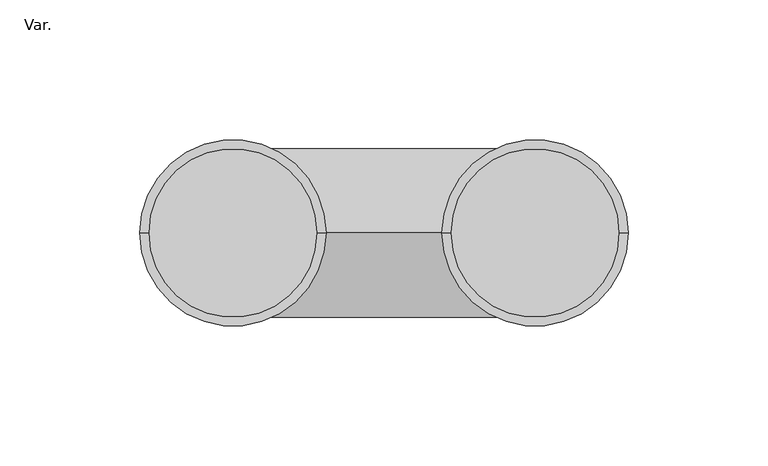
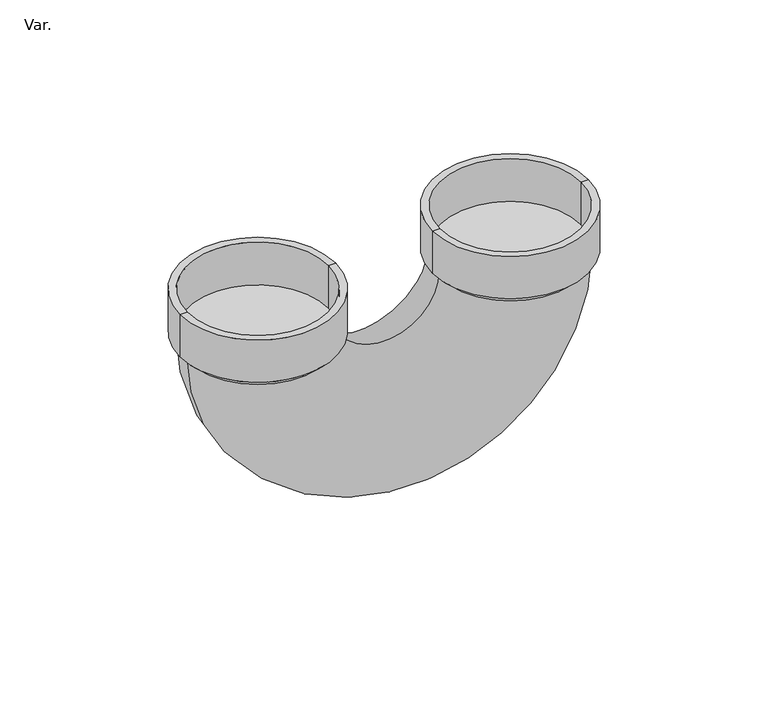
"""IFC4 building model written with IfcOpenShell, lengths in millimetres: pipe fitting geometry, PavcoWavin_UnionesDeTuberia_SanitariaSifon180_GirarCodo : Var.."""

from ifc_helpers import new_model, si_unit, point, frame, origin, origin_with_axes, place, context, project, spatial, polyline, circle_curve, ellipse_curve, trimmed, source, transform, mapped, element, save
from ifc_brep_helpers import plane_surface, cylinder_surface, revolved_surface, advanced_brep


def var_3e23a3e5(model_context):
    return source(origin(), model_context, "Body", "AdvancedBrep", [
        advanced_brep(
        [(-30.165, 0.0, -3.109), (30.165, 0.0, -3.109), (30.165, 0.0, 19.05), (-30.165, 0.0, 19.05), (-33.274, 0.0, 0.0), (33.274, 0.0, 0.0), (-33.274, 0.0, 19.05), (33.274, 0.0, 19.05)],
        [
            (0, 1, circle_curve(frame((0.0, 0.0, -3.109), z_axis=(0.0, 0.0, -1.0), x_axis=(1.0, 0.0, 0.0)), 30.165)),
            (1, 2),
            (2, 3, circle_curve(frame((0.0, 0.0, 19.05), z_axis=(0.0, 0.0, 1.0), x_axis=(1.0, 0.0, 0.0)), 30.165)),
            (3, 0),
            (1, 0, circle_curve(frame((0.0, 0.0, -3.109), z_axis=(0.0, 0.0, -1.0), x_axis=(1.0, 0.0, 0.0)), 30.165)),
            (3, 2, circle_curve(frame((0.0, 0.0, 19.05), z_axis=(0.0, 0.0, 1.0), x_axis=(1.0, 0.0, 0.0)), 30.165)),
            (4, 5, circle_curve(frame((0.0, 0.0, 0.0), z_axis=(0.0, 0.0, -1.0), x_axis=(1.0, 0.0, 0.0)), 33.274)),
            (5, 1),
            (0, 4),
            (5, 4, circle_curve(frame((0.0, 0.0, 0.0), z_axis=(0.0, 0.0, -1.0), x_axis=(1.0, 0.0, 0.0)), 33.274)),
            (6, 7, circle_curve(frame((0.0, 0.0, 19.05), z_axis=(0.0, 0.0, -1.0), x_axis=(1.0, 0.0, 0.0)), 33.274)),
            (7, 5),
            (4, 6),
            (7, 6, circle_curve(frame((0.0, 0.0, 19.05), z_axis=(0.0, 0.0, -1.0), x_axis=(1.0, 0.0, 0.0)), 33.274)),
            (2, 7),
            (6, 3),
        ],
        [
            revolved_surface(polyline([(30.165, 0.0, 19.049999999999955), (30.165, 0.0, -3.1089999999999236)]), (0.0, 0.0, -1999.109), (0.0, 0.0, 1.0)),
            revolved_surface(polyline([(30.165, 0.0, -3.109), (33.274, 0.0, 0.0)]), (0.0, 0.0, -1999.109), (0.0, 0.0, 1.0)),
            cylinder_surface(frame((0.0, 0.0, -1999.109), z_axis=(0.0, 0.0, 1.0), x_axis=(1.0, 0.0, 0.0)), 33.274),
            plane_surface(frame((0.0, 0.0, 19.05), z_axis=(0.0, 0.0, 1.0), x_axis=(1.0, 0.0, 0.0))),
        ],
        [
            (0, [[1, 2, 3, 4]]),
            (0, [[5, -4, 6, -2]]),
            (1, [[7, 8, -1, 9]]),
            (1, [[10, -9, -5, -8]]),
            (2, [[11, 12, -7, 13]]),
            (2, [[14, -13, -10, -12]]),
            (3, [[-3, 15, -11, 16]]),
            (3, [[-6, -16, -14, -15]]),
        ],
    ),
        advanced_brep(
        [(77.835, 0.0, -3.109), (138.165, 0.0, -3.109), (138.165, 0.0, 19.05), (77.835, 0.0, 19.05), (74.726, 0.0, 0.0), (141.274, 0.0, 0.0), (74.726, 0.0, 19.05), (141.274, 0.0, 19.05)],
        [
            (0, 1, circle_curve(frame((108.0, 0.0, -3.109), z_axis=(0.0, 0.0, -1.0), x_axis=(1.0, 0.0, 0.0)), 30.165)),
            (1, 2),
            (2, 3, circle_curve(frame((108.0, 0.0, 19.05), z_axis=(0.0, 0.0, 1.0), x_axis=(1.0, 0.0, 0.0)), 30.165)),
            (3, 0),
            (1, 0, circle_curve(frame((108.0, 0.0, -3.109), z_axis=(0.0, 0.0, -1.0), x_axis=(1.0, 0.0, 0.0)), 30.165)),
            (3, 2, circle_curve(frame((108.0, 0.0, 19.05), z_axis=(0.0, 0.0, 1.0), x_axis=(1.0, 0.0, 0.0)), 30.165)),
            (4, 5, circle_curve(frame((108.0, 0.0, 0.0), z_axis=(0.0, 0.0, -1.0), x_axis=(1.0, 0.0, 0.0)), 33.274)),
            (5, 1),
            (0, 4),
            (5, 4, circle_curve(frame((108.0, 0.0, 0.0), z_axis=(0.0, 0.0, -1.0), x_axis=(1.0, 0.0, 0.0)), 33.274)),
            (6, 7, circle_curve(frame((108.0, 0.0, 19.05), z_axis=(0.0, 0.0, -1.0), x_axis=(1.0, 0.0, 0.0)), 33.274)),
            (7, 5),
            (4, 6),
            (7, 6, circle_curve(frame((108.0, 0.0, 19.05), z_axis=(0.0, 0.0, -1.0), x_axis=(1.0, 0.0, 0.0)), 33.274)),
            (2, 7),
            (6, 3),
        ],
        [
            revolved_surface(polyline([(138.165, 0.0, 19.049999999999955), (138.165, 0.0, -3.1089999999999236)]), (108.0, 0.0, -1999.109), (0.0, 0.0, 1.0)),
            revolved_surface(polyline([(138.165, 0.0, -3.109), (141.274, 0.0, 0.0)]), (108.0, 0.0, -1999.109), (0.0, 0.0, 1.0)),
            cylinder_surface(frame((108.0, 0.0, -1999.109), z_axis=(0.0, 0.0, 1.0), x_axis=(1.0, 0.0, 0.0)), 33.274),
            plane_surface(frame((108.0, 0.0, 19.05), z_axis=(0.0, 0.0, 1.0), x_axis=(1.0, 0.0, 0.0))),
        ],
        [
            (0, [[1, 2, 3, 4]]),
            (0, [[5, -4, 6, -2]]),
            (1, [[7, 8, -1, 9]]),
            (1, [[10, -9, -5, -8]]),
            (2, [[11, 12, -7, 13]]),
            (2, [[14, -13, -10, -12]]),
            (3, [[-3, 15, -11, 16]]),
            (3, [[-6, -16, -14, -15]]),
        ],
    ),
        advanced_brep(
        [(-30.35, 0.0, 0.0), (30.35, 0.0, 0.0), (138.35, 0.0, 0.0), (77.65, 0.0, 0.0)],
        [
            (0, 1, circle_curve(origin_with_axes(), 30.35)),
            (1, 0, circle_curve(origin_with_axes(), 30.35)),
            (2, 3, circle_curve(frame((108.0, 0.0, 0.0), z_axis=(0.0, 0.0, 1.0), x_axis=(-1.0, 0.0, 0.0)), 30.35)),
            (3, 2, circle_curve(frame((108.0, 0.0, 0.0), z_axis=(0.0, 0.0, 1.0), x_axis=(-1.0, 0.0, 0.0)), 30.35)),
            (3, 1, circle_curve(frame((54.0, 0.0, 0.0), z_axis=(0.0, 1.0, 0.0), x_axis=(-1.0, 0.0, 0.0)), 23.65)),
            (0, 2, circle_curve(frame((54.0, 0.0, 0.0), z_axis=(0.0, -1.0, 0.0), x_axis=(-1.0, 0.0, 0.0)), 84.35)),
        ],
        [
            plane_surface(frame((0.0, 0.0, 0.0), z_axis=(0.0, 0.0, 1.0), x_axis=(0.0, -1.0, 0.0))),
            plane_surface(frame((108.0, 0.0, 0.0), z_axis=(0.0, 0.0, 1.0), x_axis=(0.0, -1.0, 0.0))),
            revolved_surface(trimmed(ellipse_curve(origin_with_axes(), 30.35, 30.35), [point((-30.35, 0.0, 0.0))], [point((30.35, 0.0, 0.0))], True, "CARTESIAN"), (54.0, 0.0, 0.0), (0.0, -1.0, 0.0)),
            revolved_surface(trimmed(ellipse_curve(origin_with_axes(), 30.35, 30.35), [point((30.35, 0.0, 0.0))], [point((-30.35, 0.0, 0.0))], True, "CARTESIAN"), (54.0, 0.0, 0.0), (0.0, -1.0, 0.0)),
        ],
        [
            (0, [[1, 2]]),
            (1, [[3, 4]]),
            (2, [[5, -1, 6, -4]]),
            (3, [[-6, -2, -5, -3]]),
        ],
    ),
    ])


if __name__ == "__main__":
    model = new_model("IFC4")
    model_context = context("Model", 3, world=origin())
    ifc_project = project(units=[si_unit("LENGTHUNIT", "METRE", prefix="MILLI")], contexts=[model_context])
    site = spatial("IfcSite", under=ifc_project)
    building = spatial("IfcBuilding", under=site)
    placement = place(None, origin())
    var_shape = var_3e23a3e5(model_context)
    element("IfcPipeFitting", 1, ObjectType="PavcoWavin_UnionesDeTuberia_SanitariaSifon180_GirarCodo : Var.", at=placement, inside=building, context=model_context, shape_type="MappedRepresentation", body=[
        mapped(var_shape, transform((0.0, 0.0, 0.0), x_axis=(1.0, 0.0, 0.0), y_axis=(0.0, 1.0, 0.0), z_axis=(0.0, 0.0, 1.0))),
    ])
    save(model, "model.ifc")
